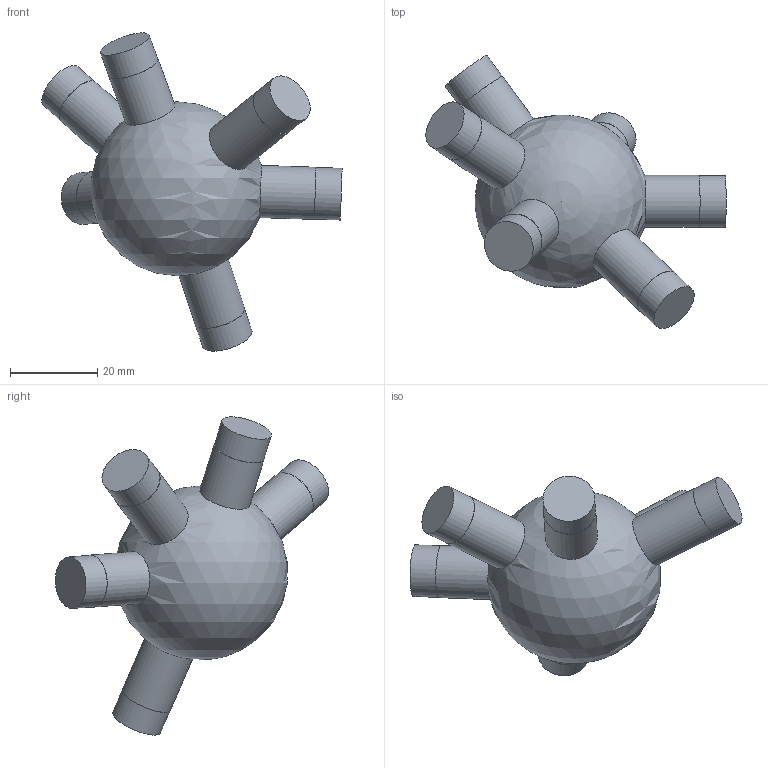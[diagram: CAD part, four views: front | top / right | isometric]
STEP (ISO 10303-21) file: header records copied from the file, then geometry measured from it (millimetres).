
FILE_DESCRIPTION(('Open CASCADE Model'),'2;1');
FILE_NAME('Open CASCADE Shape Model','2026-10-21T12:47:57',('Author'),( 'Open CASCADE'),'Open CASCADE STEP processor 7.9','Open CASCADE 7.9' ,'Unknown');
FILE_SCHEMA(('AUTOMOTIVE_DESIGN { 1 0 10303 214 1 1 1 1 }'));
Length unit declared in the file: millimetre
Products named in the file (1): Open CASCADE STEP translator 7.9 50
Bounding box: 69 x 62.77 x 73.16 mm (x, y, z)
Volume: 46420.6 mm3; surface area: 9430.2 mm2
Topology: 1 solids, 1 shells, 25 faces, 41 edges, 28 vertices
Faces by surface type: cylinder 12, plane 12, sphere 1
Full cylindrical faces by diameter (mm): 11.9 x6, 12 x6
Entity records: 1533 total; most frequent: CARTESIAN_POINT 599, DIRECTION 192, ORIENTED_EDGE 80, PCURVE 80, DEFINITIONAL_REPRESENTATION 80, LINE 66, VECTOR 66, AXIS2_PLACEMENT_3D 54
